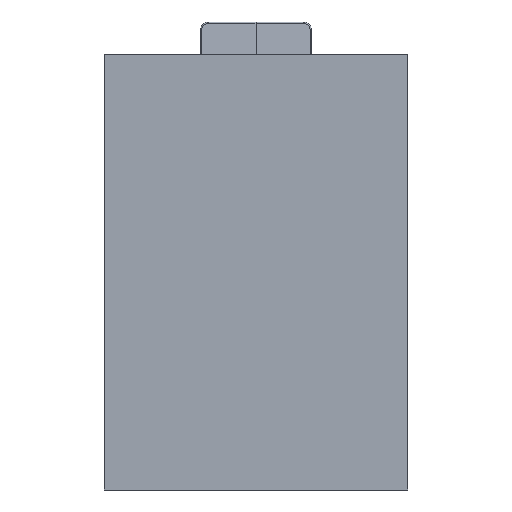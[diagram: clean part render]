
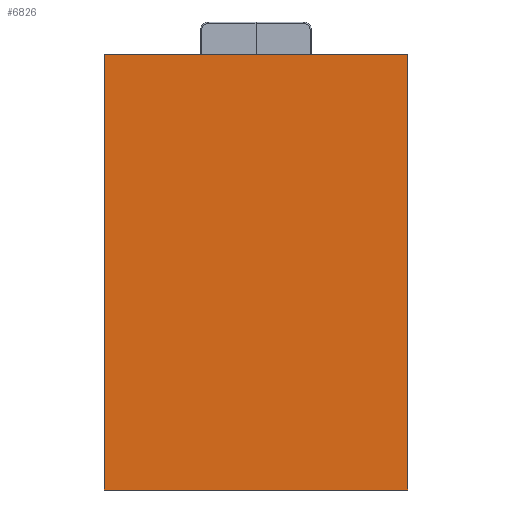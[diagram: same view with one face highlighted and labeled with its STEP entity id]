
A CAD part, front view. The second image highlights one B-rep face of the part: STEP entity #6826.
In plain terms, the highlighted planar face has unit normal (0, -1, 0).
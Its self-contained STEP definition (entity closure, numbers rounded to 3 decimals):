
#2047=DIRECTION('',(0.,0.,1.));
#2048=VECTOR('',#2047,165.);
#2049=CARTESIAN_POINT('',(-57.5,33.4,-103.5));
#2050=LINE('',#2049,#2048);
#2051=DIRECTION('',(1.,0.,0.));
#2052=VECTOR('',#2051,115.);
#2053=CARTESIAN_POINT('',(-57.5,33.4,61.5));
#2054=LINE('',#2053,#2052);
#2055=DIRECTION('',(0.,0.,-1.));
#2056=VECTOR('',#2055,165.);
#2057=CARTESIAN_POINT('',(57.5,33.4,61.5));
#2058=LINE('',#2057,#2056);
#2059=DIRECTION('',(-1.,0.,0.));
#2060=VECTOR('',#2059,115.);
#2061=CARTESIAN_POINT('',(57.5,33.4,-103.5));
#2062=LINE('',#2061,#2060);
#3898=CARTESIAN_POINT('',(-57.5,33.4,-103.5));
#3899=CARTESIAN_POINT('',(-57.5,33.4,61.5));
#3900=VERTEX_POINT('',#3898);
#3901=VERTEX_POINT('',#3899);
#3902=CARTESIAN_POINT('',(57.5,33.4,61.5));
#3903=CARTESIAN_POINT('',(57.5,33.4,-103.5));
#3904=VERTEX_POINT('',#3902);
#3905=VERTEX_POINT('',#3903);
#6813=CARTESIAN_POINT('',(101.,33.4,-155.17));
#6814=DIRECTION('',(0.,1.,0.));
#6815=DIRECTION('',(0.,0.,1.));
#6816=AXIS2_PLACEMENT_3D('',#6813,#6814,#6815);
#6817=PLANE('',#6816);
#6818=ORIENTED_EDGE('',*,*,#6804,.T.);
#6820=ORIENTED_EDGE('',*,*,#6819,.T.);
#6822=ORIENTED_EDGE('',*,*,#6821,.T.);
#6823=ORIENTED_EDGE('',*,*,#6792,.T.);
#6824=EDGE_LOOP('',(#6818,#6820,#6822,#6823));
#6825=FACE_OUTER_BOUND('',#6824,.F.);
#6826=ADVANCED_FACE('',(#6825),#6817,.F.);
#6792=EDGE_CURVE('',#3905,#3900,#2062,.T.);
#6804=EDGE_CURVE('',#3900,#3901,#2050,.T.);
#6819=EDGE_CURVE('',#3901,#3904,#2054,.T.);
#6821=EDGE_CURVE('',#3904,#3905,#2058,.T.);
